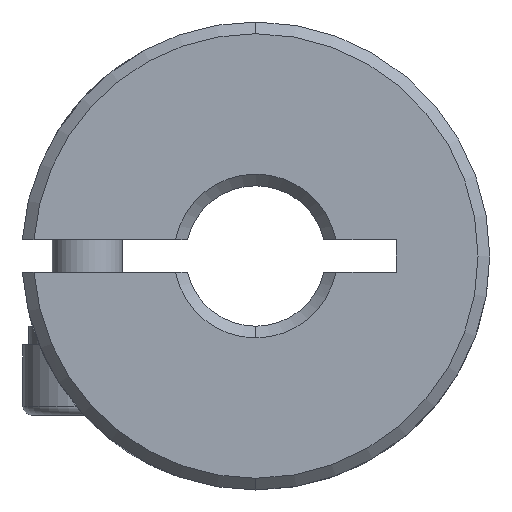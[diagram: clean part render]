
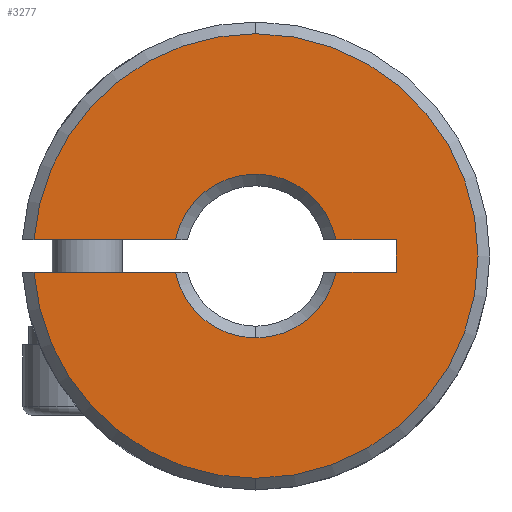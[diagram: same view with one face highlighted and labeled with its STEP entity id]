
A CAD part, front view. The second image highlights one B-rep face of the part: STEP entity #3277.
In plain terms, the highlighted planar face has unit normal (0, -1, 0).
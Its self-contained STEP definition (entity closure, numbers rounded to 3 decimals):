
#2 = VECTOR ( 'NONE', #1972, 1000. ) ;
#37 = DIRECTION ( 'NONE',  ( 0., 0., 1. ) ) ;
#98 = DIRECTION ( 'NONE',  ( 1., 0., 0. ) ) ;
#166 = DIRECTION ( 'NONE',  ( -1., 0., 0. ) ) ;
#177 = CARTESIAN_POINT ( 'NONE',  ( 3.429, 0.25, 0.7 ) ) ;
#188 = VERTEX_POINT ( 'NONE', #1695 ) ;
#225 = CARTESIAN_POINT ( 'NONE',  ( -3.429, 0.25, -0.7 ) ) ;
#241 = EDGE_CURVE ( 'NONE', #3110, #1326, #3744, .T. ) ;
#253 = CARTESIAN_POINT ( 'NONE',  ( 6., 0.25, 0.7 ) ) ;
#264 = CIRCLE ( 'NONE', #1964, 9.5 ) ;
#265 = EDGE_CURVE ( 'NONE', #3271, #2481, #3245, .T. ) ;
#313 = DIRECTION ( 'NONE',  ( 0., 1., 0. ) ) ;
#346 = ORIENTED_EDGE ( 'NONE', *, *, #265, .T. ) ;
#404 = EDGE_CURVE ( 'NONE', #3655, #3110, #2968, .T. ) ;
#485 = CARTESIAN_POINT ( 'NONE',  ( 6., 0.25, 0.7 ) ) ;
#514 = CARTESIAN_POINT ( 'NONE',  ( -3.429, 0.25, 0.7 ) ) ;
#529 = FACE_OUTER_BOUND ( 'NONE', #3035, .T. ) ;
#535 = DIRECTION ( 'NONE',  ( 0., 0., 1. ) ) ;
#572 = ORIENTED_EDGE ( 'NONE', *, *, #3359, .F. ) ;
#583 = DIRECTION ( 'NONE',  ( 0., 0., 1. ) ) ;
#612 = EDGE_CURVE ( 'NONE', #1067, #2668, #2965, .T. ) ;
#618 = AXIS2_PLACEMENT_3D ( 'NONE', #1403, #860, #535 ) ;
#644 = VERTEX_POINT ( 'NONE', #225 ) ;
#818 = DIRECTION ( 'NONE',  ( 0., -1., 0. ) ) ;
#843 = CARTESIAN_POINT ( 'NONE',  ( 0., 0.25, 0. ) ) ;
#852 = CARTESIAN_POINT ( 'NONE',  ( 0., 0.25, 0. ) ) ;
#860 = DIRECTION ( 'NONE',  ( 0., 1., 0. ) ) ;
#862 = DIRECTION ( 'NONE',  ( 0., 1., 0. ) ) ;
#978 = CARTESIAN_POINT ( 'NONE',  ( 0., 0.25, 9.5 ) ) ;
#1031 = AXIS2_PLACEMENT_3D ( 'NONE', #852, #313, #2319 ) ;
#1067 = VERTEX_POINT ( 'NONE', #978 ) ;
#1080 = AXIS2_PLACEMENT_3D ( 'NONE', #2513, #1328, #2208 ) ;
#1131 = CARTESIAN_POINT ( 'NONE',  ( 6., 0.25, 0.7 ) ) ;
#1175 = CIRCLE ( 'NONE', #1080, 3.5 ) ;
#1215 = ORIENTED_EDGE ( 'NONE', *, *, #2168, .T. ) ;
#1313 = CARTESIAN_POINT ( 'NONE',  ( -9.474, 0.25, -0.7 ) ) ;
#1326 = VERTEX_POINT ( 'NONE', #2074 ) ;
#1328 = DIRECTION ( 'NONE',  ( 0., 1., 0. ) ) ;
#1403 = CARTESIAN_POINT ( 'NONE',  ( -50., 0.25, 12. ) ) ;
#1418 = VECTOR ( 'NONE', #98, 1000. ) ;
#1431 = DIRECTION ( 'NONE',  ( 0., 0., 1. ) ) ;
#1435 = CARTESIAN_POINT ( 'NONE',  ( 0., 0.25, 0. ) ) ;
#1471 = EDGE_CURVE ( 'NONE', #3271, #2668, #3180, .T. ) ;
#1497 = DIRECTION ( 'NONE',  ( 0., -1., 0. ) ) ;
#1511 = EDGE_CURVE ( 'NONE', #1326, #2481, #1774, .T. ) ;
#1525 = CARTESIAN_POINT ( 'NONE',  ( -9.474, 0.25, 0.7 ) ) ;
#1627 = LINE ( 'NONE', #2315, #2087 ) ;
#1676 = EDGE_CURVE ( 'NONE', #188, #1067, #264, .T. ) ;
#1695 = CARTESIAN_POINT ( 'NONE',  ( 0., 0.25, -9.5 ) ) ;
#1699 = ORIENTED_EDGE ( 'NONE', *, *, #404, .F. ) ;
#1774 = LINE ( 'NONE', #1131, #2 ) ;
#1846 = CARTESIAN_POINT ( 'NONE',  ( 0., 0.25, -3.5 ) ) ;
#1847 = DIRECTION ( 'NONE',  ( 0., -1., 0. ) ) ;
#1856 = CARTESIAN_POINT ( 'NONE',  ( 6., 0.25, -0.7 ) ) ;
#1863 = CARTESIAN_POINT ( 'NONE',  ( 0., 0.25, 0. ) ) ;
#1964 = AXIS2_PLACEMENT_3D ( 'NONE', #3212, #1497, #37 ) ;
#1972 = DIRECTION ( 'NONE',  ( -1., 0., 0. ) ) ;
#2012 = ORIENTED_EDGE ( 'NONE', *, *, #2023, .T. ) ;
#2023 = EDGE_CURVE ( 'NONE', #3061, #188, #3368, .T. ) ;
#2074 = CARTESIAN_POINT ( 'NONE',  ( 6., 0.25, 0.7 ) ) ;
#2087 = VECTOR ( 'NONE', #3243, 1000. ) ;
#2099 = ORIENTED_EDGE ( 'NONE', *, *, #1676, .T. ) ;
#2120 = DIRECTION ( 'NONE',  ( 0., 0., 1. ) ) ;
#2168 = EDGE_CURVE ( 'NONE', #3655, #3092, #1175, .T. ) ;
#2169 = ORIENTED_EDGE ( 'NONE', *, *, #241, .F. ) ;
#2185 = AXIS2_PLACEMENT_3D ( 'NONE', #843, #818, #2840 ) ;
#2208 = DIRECTION ( 'NONE',  ( 0., 0., 1. ) ) ;
#2227 = ORIENTED_EDGE ( 'NONE', *, *, #612, .T. ) ;
#2315 = CARTESIAN_POINT ( 'NONE',  ( 6., 0.25, -0.7 ) ) ;
#2319 = DIRECTION ( 'NONE',  ( 0., 0., 1. ) ) ;
#2372 = VECTOR ( 'NONE', #1431, 1000. ) ;
#2380 = ORIENTED_EDGE ( 'NONE', *, *, #2920, .T. ) ;
#2481 = VERTEX_POINT ( 'NONE', #177 ) ;
#2513 = CARTESIAN_POINT ( 'NONE',  ( 0., 0.25, 0. ) ) ;
#2555 = ORIENTED_EDGE ( 'NONE', *, *, #1511, .F. ) ;
#2632 = VECTOR ( 'NONE', #166, 1000. ) ;
#2668 = VERTEX_POINT ( 'NONE', #1525 ) ;
#2765 = CARTESIAN_POINT ( 'NONE',  ( 6., 0.25, -0.7 ) ) ;
#2840 = DIRECTION ( 'NONE',  ( 0., 0., 1. ) ) ;
#2893 = CARTESIAN_POINT ( 'NONE',  ( 3.429, 0.25, -0.7 ) ) ;
#2920 = EDGE_CURVE ( 'NONE', #3092, #644, #3639, .T. ) ;
#2965 = CIRCLE ( 'NONE', #2185, 9.5 ) ;
#2968 = LINE ( 'NONE', #1856, #1418 ) ;
#3035 = EDGE_LOOP ( 'NONE', ( #572, #2012, #2099, #2227, #3452, #346, #2555, #2169, #1699, #1215, #2380 ) ) ;
#3061 = VERTEX_POINT ( 'NONE', #1313 ) ;
#3092 = VERTEX_POINT ( 'NONE', #1846 ) ;
#3110 = VERTEX_POINT ( 'NONE', #2765 ) ;
#3180 = LINE ( 'NONE', #485, #2632 ) ;
#3212 = CARTESIAN_POINT ( 'NONE',  ( 0., 0.25, 0. ) ) ;
#3243 = DIRECTION ( 'NONE',  ( 1., 0., 0. ) ) ;
#3245 = CIRCLE ( 'NONE', #3563, 3.5 ) ;
#3271 = VERTEX_POINT ( 'NONE', #514 ) ;
#3277 = ADVANCED_FACE ( 'NONE', ( #529 ), #3723, .F. ) ;
#3346 = AXIS2_PLACEMENT_3D ( 'NONE', #1863, #1847, #2120 ) ;
#3359 = EDGE_CURVE ( 'NONE', #3061, #644, #1627, .T. ) ;
#3368 = CIRCLE ( 'NONE', #3346, 9.5 ) ;
#3452 = ORIENTED_EDGE ( 'NONE', *, *, #1471, .F. ) ;
#3563 = AXIS2_PLACEMENT_3D ( 'NONE', #1435, #862, #583 ) ;
#3639 = CIRCLE ( 'NONE', #1031, 3.5 ) ;
#3655 = VERTEX_POINT ( 'NONE', #2893 ) ;
#3723 = PLANE ( 'NONE',  #618 ) ;
#3744 = LINE ( 'NONE', #253, #2372 ) ;
